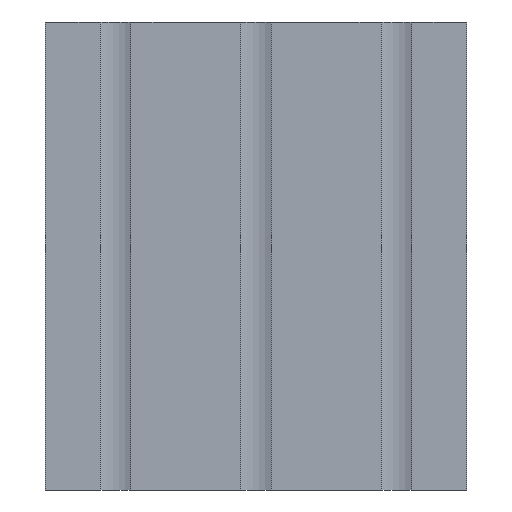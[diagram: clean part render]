
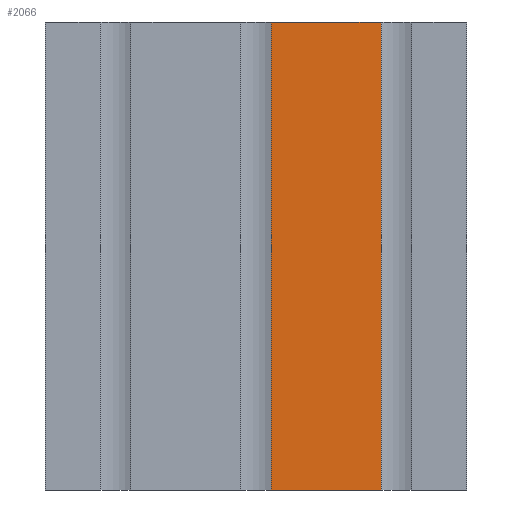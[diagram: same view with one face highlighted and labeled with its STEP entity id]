
A CAD part, front view. The second image highlights one B-rep face of the part: STEP entity #2066.
In plain terms, the highlighted planar face has unit normal (0, -1, 0).
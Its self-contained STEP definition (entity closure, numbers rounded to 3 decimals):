
#446=ORIENTED_EDGE('',*,*,#885,.T.);
#447=ORIENTED_EDGE('',*,*,#886,.F.);
#448=ORIENTED_EDGE('',*,*,#887,.F.);
#449=ORIENTED_EDGE('',*,*,#775,.F.);
#775=EDGE_CURVE('',#1041,#1042,#1244,.T.);
#885=EDGE_CURVE('',#1041,#1108,#1346,.T.);
#886=EDGE_CURVE('',#1109,#1108,#1347,.T.);
#887=EDGE_CURVE('',#1042,#1109,#1348,.T.);
#1041=VERTEX_POINT('',#3029);
#1042=VERTEX_POINT('',#3031);
#1108=VERTEX_POINT('',#3249);
#1109=VERTEX_POINT('',#3253);
#1244=LINE('',#3030,#1504);
#1346=LINE('',#3250,#1606);
#1347=LINE('',#3252,#1607);
#1348=LINE('',#3254,#1608);
#1504=VECTOR('',#2451,1000.);
#1606=VECTOR('',#2655,1000.);
#1607=VECTOR('',#2658,1000.);
#1608=VECTOR('',#2659,1000.);
#1744=EDGE_LOOP('',(#446,#447,#448,#449));
#1870=FACE_BOUND('',#1744,.T.);
#1968=PLANE('',#2207);
#2066=ADVANCED_FACE('',(#1870),#1968,.T.);
#2207=AXIS2_PLACEMENT_3D('',#3251,#2656,#2657);
#2451=DIRECTION('',(-1.,0.,0.));
#2655=DIRECTION('',(0.,0.,1.));
#2656=DIRECTION('',(0.,-1.,0.));
#2657=DIRECTION('',(1.,0.,0.));
#2658=DIRECTION('',(1.,0.,0.));
#2659=DIRECTION('',(0.,0.,1.));
#3029=CARTESIAN_POINT('',(26.75,-15.,-50.));
#3030=CARTESIAN_POINT('',(3.25,-15.,-50.));
#3031=CARTESIAN_POINT('',(3.25,-15.,-50.));
#3249=CARTESIAN_POINT('',(26.75,-15.,50.));
#3250=CARTESIAN_POINT('',(26.75,-15.,0.));
#3251=CARTESIAN_POINT('',(3.25,-15.,0.));
#3252=CARTESIAN_POINT('',(3.25,-15.,50.));
#3253=CARTESIAN_POINT('',(3.25,-15.,50.));
#3254=CARTESIAN_POINT('',(3.25,-15.,0.));
